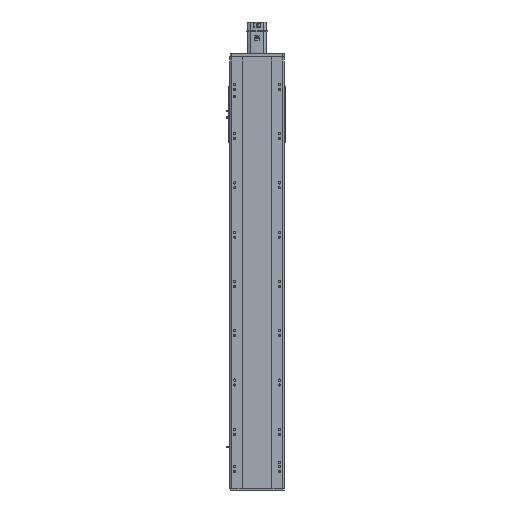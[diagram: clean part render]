
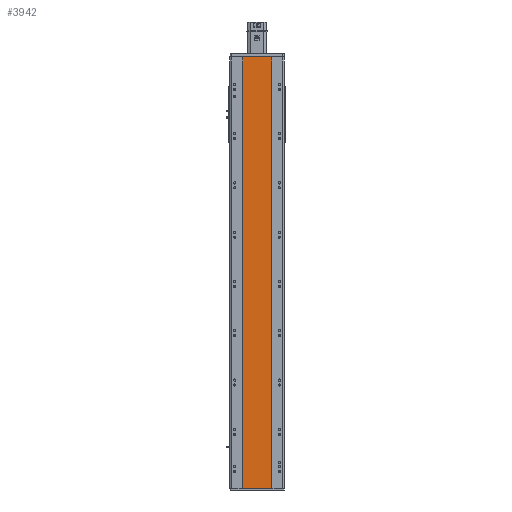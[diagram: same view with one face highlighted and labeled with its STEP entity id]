
A CAD part, front view. The second image highlights one B-rep face of the part: STEP entity #3942.
In plain terms, the highlighted planar face has unit normal (0, -1, 0).
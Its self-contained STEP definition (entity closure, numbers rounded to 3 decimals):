
#124 = VERTEX_POINT ( 'NONE', #26487 ) ;
#394 = VECTOR ( 'NONE', #21933, 1000. ) ;
#490 = PLANE ( 'NONE',  #1637 ) ;
#1401 = VECTOR ( 'NONE', #21830, 1000. ) ;
#1637 = AXIS2_PLACEMENT_3D ( 'NONE', #31550, #12944, #34658 ) ;
#3942 = ADVANCED_FACE ( 'NONE', ( #15039 ), #490, .F. ) ;
#6005 = CARTESIAN_POINT ( 'NONE',  ( -59., 1., -875.5 ) ) ;
#6410 = VERTEX_POINT ( 'NONE', #7538 ) ;
#7266 = LINE ( 'NONE', #9414, #394 ) ;
#7538 = CARTESIAN_POINT ( 'NONE',  ( -59., 1., -875.5 ) ) ;
#7821 = ORIENTED_EDGE ( 'NONE', *, *, #26057, .T. ) ;
#8391 = EDGE_CURVE ( 'NONE', #6410, #15953, #34528, .T. ) ;
#9414 = CARTESIAN_POINT ( 'NONE',  ( -59., 1., 875.5 ) ) ;
#12944 = DIRECTION ( 'NONE',  ( 0., 1., 0. ) ) ;
#14017 = EDGE_CURVE ( 'NONE', #124, #14379, #26873, .T. ) ;
#14379 = VERTEX_POINT ( 'NONE', #31783 ) ;
#15039 = FACE_OUTER_BOUND ( 'NONE', #30183, .T. ) ;
#15953 = VERTEX_POINT ( 'NONE', #31651 ) ;
#19846 = EDGE_CURVE ( 'NONE', #14379, #15953, #32426, .T. ) ;
#21407 = ORIENTED_EDGE ( 'NONE', *, *, #19846, .F. ) ;
#21830 = DIRECTION ( 'NONE',  ( 1., 0., 0. ) ) ;
#21933 = DIRECTION ( 'NONE',  ( 0., 0., -1. ) ) ;
#24132 = DIRECTION ( 'NONE',  ( 0., 0., -1. ) ) ;
#25499 = ORIENTED_EDGE ( 'NONE', *, *, #8391, .T. ) ;
#26057 = EDGE_CURVE ( 'NONE', #124, #6410, #7266, .T. ) ;
#26487 = CARTESIAN_POINT ( 'NONE',  ( -59., 1., 875.5 ) ) ;
#26873 = LINE ( 'NONE', #40253, #28306 ) ;
#27499 = DIRECTION ( 'NONE',  ( 1., 0., 0. ) ) ;
#27817 = ORIENTED_EDGE ( 'NONE', *, *, #14017, .F. ) ;
#28306 = VECTOR ( 'NONE', #27499, 1000. ) ;
#30183 = EDGE_LOOP ( 'NONE', ( #25499, #21407, #27817, #7821 ) ) ;
#30498 = CARTESIAN_POINT ( 'NONE',  ( 59., 1., 875.5 ) ) ;
#31550 = CARTESIAN_POINT ( 'NONE',  ( -59., 1., 875.5 ) ) ;
#31651 = CARTESIAN_POINT ( 'NONE',  ( 59., 1., -875.5 ) ) ;
#31783 = CARTESIAN_POINT ( 'NONE',  ( 59., 1., 875.5 ) ) ;
#32426 = LINE ( 'NONE', #30498, #39714 ) ;
#34528 = LINE ( 'NONE', #6005, #1401 ) ;
#34658 = DIRECTION ( 'NONE',  ( -1., 0., 0. ) ) ;
#39714 = VECTOR ( 'NONE', #24132, 1000. ) ;
#40253 = CARTESIAN_POINT ( 'NONE',  ( -59., 1., 875.5 ) ) ;
